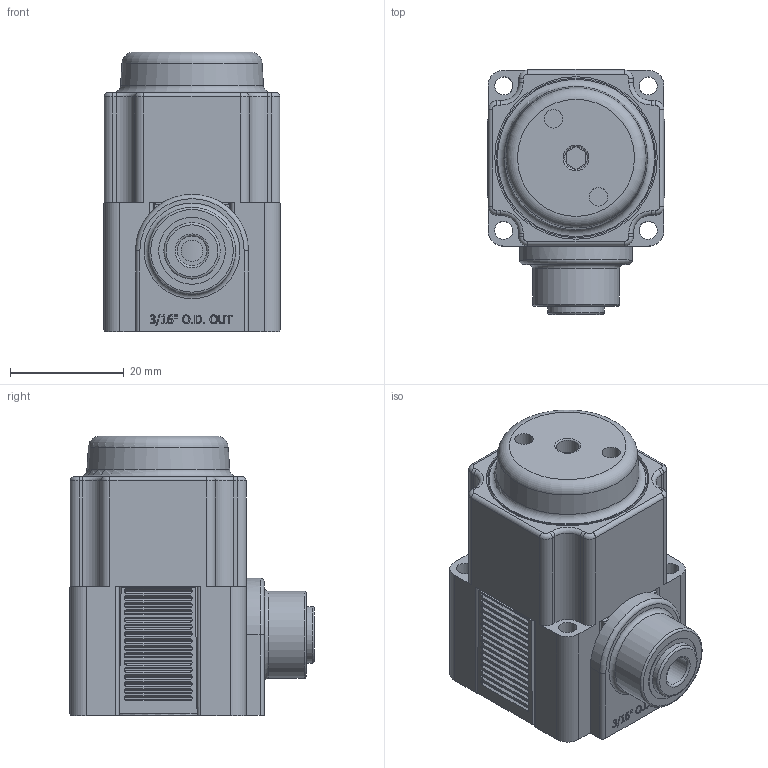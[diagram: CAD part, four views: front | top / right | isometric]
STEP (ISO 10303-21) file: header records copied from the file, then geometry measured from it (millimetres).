
FILE_DESCRIPTION(/* description */ (''),/* implementation_level */ '2;1');
FILE_NAME(/* name */ 'K:\Normteile INVENTOR\Air-Logic\Regulators\PR7000\PR 7___ 4 Push-In Fitting for 3''16 O.D. Tube Out.igs.ipt.stp',/* time_stamp */ '2020-05-27T10:54:03+02:00',/* author */ ('Paul'),/* organization */ (''),/* preprocessor_version */ 'ST-DEVELOPER v18',/* originating_system */ 'Autodesk Inventor 2020',/* authorisation */ '');
FILE_SCHEMA (('AUTOMOTIVE_DESIGN { 1 0 10303 214 3 1 1 }'));
Length unit declared in the file: inch
Products named in the file (1): PR 7___ 4 Push-In Fitting for 3'16 O.D. Tube Out.igs
Bounding box: 31.19 x 43.08 x 49.15 mm (x, y, z)
Volume: 41792.4 mm3; surface area: 13228 mm2
Topology: 1 solids, 1 shells, 749 faces, 1945 edges, 1274 vertices
Faces by surface type: plane 371, cylinder 253, bspline 99, torus 24, cone 2
Full cylindrical faces by diameter (mm): 3.175 x4, 3.226 x2, 3.785 x1, 4.013 x1, 5.207 x1, 6.045 x1, 9.169 x1, 9.398 x1, 9.906 x1, 11.735 x1, 12.903 x1, 15.291 x1, 26.264 x1, 28.047 x1, 28.575 x1
Entity records: 25945 total; most frequent: CARTESIAN_POINT 6792, ORIENTED_EDGE 3890, DIRECTION 3753, EDGE_CURVE 1945, AXIS2_PLACEMENT_3D 1413, VERTEX_POINT 1274, LINE 927, VECTOR 927
